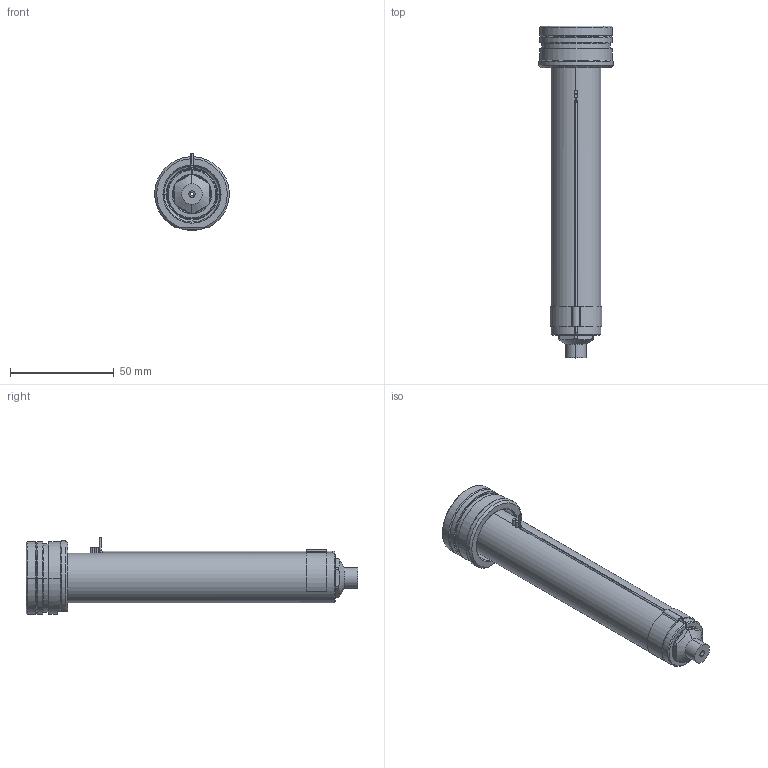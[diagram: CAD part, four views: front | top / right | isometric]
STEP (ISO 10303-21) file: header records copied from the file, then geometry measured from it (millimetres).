
FILE_DESCRIPTION((''),'2;1');
FILE_NAME('EO06_VG-ST_STD_140_SW','2024-02-19T12:38:43',('sundharh'),(''),'CREO PARAMETRIC BY PTC INC, 2023154','CREO PARAMETRIC BY PTC INC, 2023154','');
FILE_SCHEMA(('CONFIG_CONTROL_DESIGN'));
Length unit declared in the file: millimetre
Products named in the file (1): EO06_VG-ST_STD_140_SW
Bounding box: 35.93 x 160 x 37 mm (x, y, z)
Volume: 73024.6 mm3; surface area: 20258.9 mm2
Topology: 2 solids, 2 shells, 176 faces, 448 edges, 273 vertices
Faces by surface type: cylinder 68, plane 41, cone 34, torus 21, bspline 10, sphere 2
Entity records: 6155 total; most frequent: CARTESIAN_POINT 1840, DIRECTION 952, ORIENTED_EDGE 884, EDGE_CURVE 442, AXIS2_PLACEMENT_3D 398, VERTEX_POINT 273, CIRCLE 232, EDGE_LOOP 189
